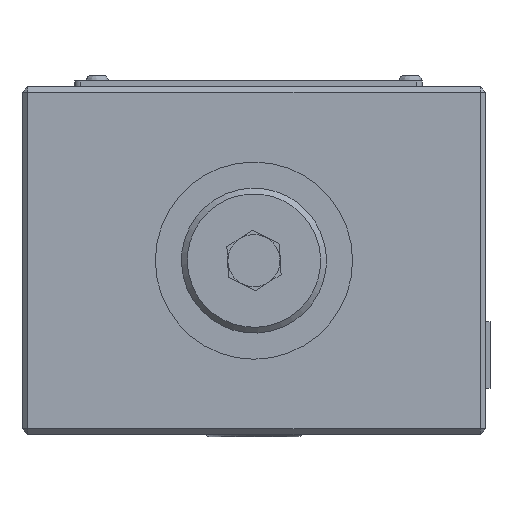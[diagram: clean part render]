
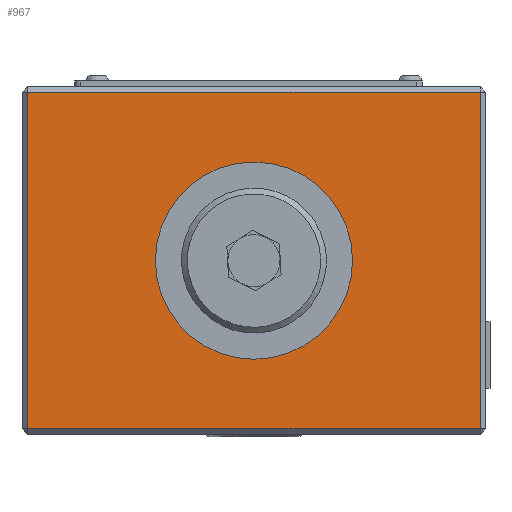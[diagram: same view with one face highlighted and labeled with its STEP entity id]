
A CAD part, front view. The second image highlights one B-rep face of the part: STEP entity #967.
In plain terms, the highlighted planar face has unit normal (0, -1, 0).
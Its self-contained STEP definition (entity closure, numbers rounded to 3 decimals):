
#674=PLANE('',#7368);
#967=ADVANCED_FACE('',(#1567,#1568),#674,.T.);
#1567=FACE_BOUND('',#1889,.T.);
#1568=FACE_BOUND('',#1890,.T.);
#1889=EDGE_LOOP('',(#3660,#3661,#3662,#3663));
#1890=EDGE_LOOP('',(#3664));
#2525=CIRCLE('',#7367,17.);
#2803=LINE('',#10691,#3217);
#2804=LINE('',#10694,#3218);
#2805=LINE('',#10696,#3219);
#2806=LINE('',#10698,#3220);
#3217=VECTOR('',#8180,1.);
#3218=VECTOR('',#8181,1.);
#3219=VECTOR('',#8182,1.);
#3220=VECTOR('',#8183,1.);
#3660=ORIENTED_EDGE('',*,*,#6203,.T.);
#3661=ORIENTED_EDGE('',*,*,#6204,.T.);
#3662=ORIENTED_EDGE('',*,*,#6205,.T.);
#3663=ORIENTED_EDGE('',*,*,#6206,.T.);
#3664=ORIENTED_EDGE('',*,*,#6207,.F.);
#5558=VERTEX_POINT('',#10692);
#5559=VERTEX_POINT('',#10693);
#5560=VERTEX_POINT('',#10695);
#5561=VERTEX_POINT('',#10697);
#5562=VERTEX_POINT('',#10700);
#6203=EDGE_CURVE('',#5558,#5559,#2803,.T.);
#6204=EDGE_CURVE('',#5559,#5560,#2804,.T.);
#6205=EDGE_CURVE('',#5560,#5561,#2805,.T.);
#6206=EDGE_CURVE('',#5561,#5558,#2806,.T.);
#6207=EDGE_CURVE('',#5562,#5562,#2525,.T.);
#7367=AXIS2_PLACEMENT_3D('',#10699,#8184,#8185);
#7368=AXIS2_PLACEMENT_3D('',#10701,#8186,#8187);
#8180=DIRECTION('',(-1.,0.,0.));
#8181=DIRECTION('',(0.,0.,-1.));
#8182=DIRECTION('',(1.,0.,0.));
#8183=DIRECTION('',(0.,0.,1.));
#8184=DIRECTION('',(0.,-1.,0.));
#8185=DIRECTION('',(0.,0.,1.));
#8186=DIRECTION('',(0.,-1.,0.));
#8187=DIRECTION('',(0.,0.,-1.));
#10691=CARTESIAN_POINT('',(-32.199,-94.308,29.));
#10692=CARTESIAN_POINT('',(46.801,-94.308,29.));
#10693=CARTESIAN_POINT('',(-31.199,-94.308,29.));
#10694=CARTESIAN_POINT('',(-31.199,-94.308,-30.));
#10695=CARTESIAN_POINT('',(-31.199,-94.308,-29.));
#10696=CARTESIAN_POINT('',(47.801,-94.308,-29.));
#10697=CARTESIAN_POINT('',(46.801,-94.308,-29.));
#10698=CARTESIAN_POINT('',(46.801,-94.308,-30.));
#10699=CARTESIAN_POINT('',(7.801,-94.308,0.));
#10700=CARTESIAN_POINT('',(7.801,-94.308,17.));
#10701=CARTESIAN_POINT('',(-32.199,-94.308,-30.));
